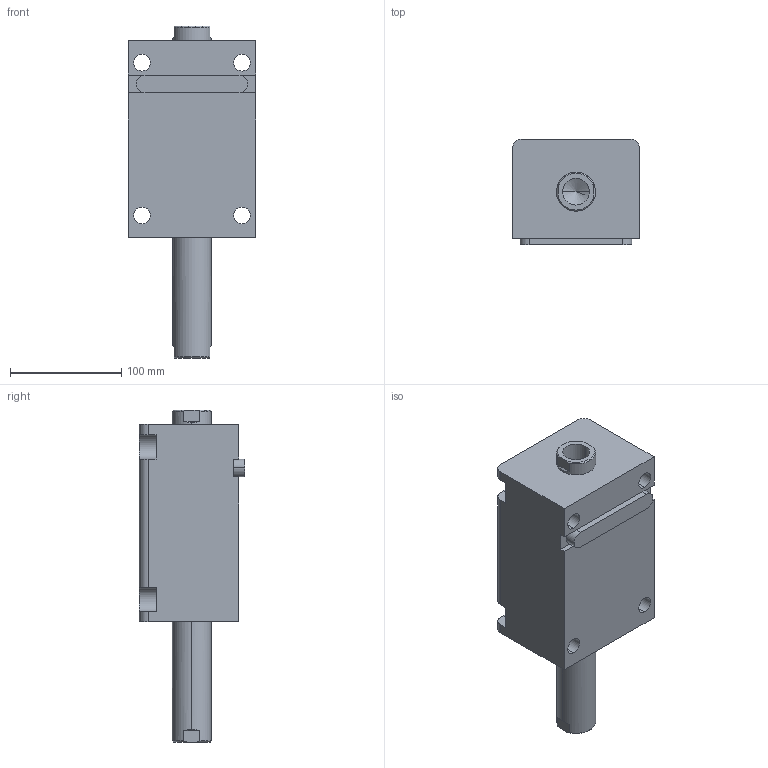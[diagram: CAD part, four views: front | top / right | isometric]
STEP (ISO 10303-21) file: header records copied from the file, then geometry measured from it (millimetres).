
FILE_DESCRIPTION (( 'STEP AP203' ), '1' );
FILE_NAME ('HTB-LW63-95N.STEP', '2019-10-09T08:30:02', ( '微软用户' ), ( '微软中国' ), 'SwSTEP 2.0', 'SolidWorks 2012', '' );
FILE_SCHEMA (( 'CONFIG_CONTROL_DESIGN' ));
Length unit declared in the file: millimetre
Products named in the file (4): HTB-LW63-95N; HTB-LA63-瑩; HTB-LW63-95N活塞杆; HTB-LW63-95掛极
Assembly tree (3 placements, depth 2):
  HTB-LW63-95N
    HTB-LW63-95掛极
    HTB-LW63-95N活塞杆
    HTB-LA63-瑩
Bounding box: 114 x 94.5 x 298 mm (x, y, z)
Volume: 1591616.7 mm3; surface area: 191040.1 mm2
Topology: 3 solids, 3 shells, 101 faces, 253 edges, 164 vertices
Faces by surface type: plane 44, cylinder 41, cone 12, torus 4
Entity records: 3467 total; most frequent: CARTESIAN_POINT 576, DIRECTION 549, ORIENTED_EDGE 498, EDGE_CURVE 249, AXIS2_PLACEMENT_3D 209, VERTEX_POINT 164, LINE 131, VECTOR 131
